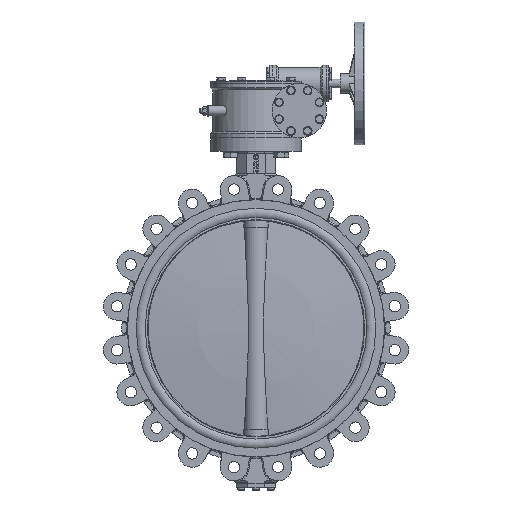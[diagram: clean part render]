
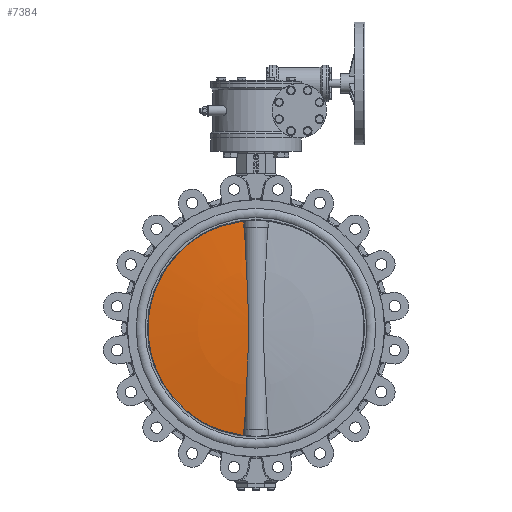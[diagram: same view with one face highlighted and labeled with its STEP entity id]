
A CAD part, left-side view. The second image highlights one B-rep face of the part: STEP entity #7384.
In plain terms, the highlighted spherical face has radius 2200.11 mm.
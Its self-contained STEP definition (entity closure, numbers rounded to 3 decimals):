
#7384=ADVANCED_FACE('',(#14074),#14076,.T.);
#14074=FACE_BOUND('',#14075,.T.);
#14075=EDGE_LOOP('',(#25627,#25628,#25629,#25630,#25631,#25632));
#14076=SPHERICAL_SURFACE('',#14077,2200.107);
#14077=AXIS2_PLACEMENT_3D('',#14078,#14079,#14080);
#14078=CARTESIAN_POINT('',(0.,-2177.107,0.));
#14079=DIRECTION('',(0.,-1.,0.));
#14080=DIRECTION('',(0.,0.,1.));
#25627=ORIENTED_EDGE('',*,*,#29377,.F.);
#25628=ORIENTED_EDGE('',*,*,#29389,.F.);
#25629=ORIENTED_EDGE('',*,*,#29390,.T.);
#25630=ORIENTED_EDGE('',*,*,#29391,.F.);
#25631=ORIENTED_EDGE('',*,*,#29360,.F.);
#25632=ORIENTED_EDGE('',*,*,#29388,.T.);
#29360=EDGE_CURVE('',#33767,#33768,#33769,.T.);
#29377=EDGE_CURVE('',#33800,#33785,#33802,.F.);
#29388=EDGE_CURVE('',#33767,#33785,#33817,.T.);
#29389=EDGE_CURVE('',#33818,#33800,#33819,.T.);
#29390=EDGE_CURVE('',#33818,#33820,#33821,.T.);
#29391=EDGE_CURVE('',#33768,#33820,#33822,.F.);
#33767=VERTEX_POINT('',#49223);
#33768=VERTEX_POINT('',#49224);
#33769=B_SPLINE_CURVE_WITH_KNOTS('',3,
(#49225,#49226,#49227,#49228,#49229,#49230,#49231),
.UNSPECIFIED.,.F.,.F.,
(4,1,1,1,4),
(0.,0.249,0.498,0.749,1.),
.UNSPECIFIED.);
#33785=VERTEX_POINT('',#49347);
#33800=VERTEX_POINT('',#49459);
#33802=B_SPLINE_CURVE_WITH_KNOTS('',3,
(#49464,#49465,#49466,#49467,#49468,#49469,#49470),
.UNSPECIFIED.,.F.,.F.,
(4,1,1,1,4),
(0.,0.249,0.498,0.749,1.),
.UNSPECIFIED.);
#33817=CIRCLE('',#49578,250.);
#33818=VERTEX_POINT('',#49582);
#33819=CIRCLE('',#49583,2187.655);
#33820=VERTEX_POINT('',#49587);
#33821=B_SPLINE_CURVE_WITH_KNOTS('',3,
(#49588,#49589,#49590,#49591,#49592,#49593,#49594,#49595,#49596,#49597,#49598,#49599,
#49600,#49601,#49602,#49603,#49604,#49605,#49606,#49607,#49608,#49609,#49610,#49611,
#49612,#49613,#49614,#49615,#49616,#49617,#49618,#49619,#49620,#49621,#49622,#49623,
#49624),
.UNSPECIFIED.,.F.,.F.,
(4,1,1,1,1,1,1,1,1,1,1,1,1,1,1,1,1,1,1,1,1,1,1,1,1,1,1,1,1,1,1,1,1,1,4),
(0.,0.02,0.041,0.061,0.082,
0.102,0.134,0.183,0.248,0.303,
0.345,0.371,0.395,0.417,0.44,
0.463,0.486,0.5,0.51,0.534,
0.559,0.585,0.612,0.64,0.669,
0.698,0.729,0.761,0.793,0.826,
0.86,0.894,0.929,0.964,1.),
.UNSPECIFIED.);
#33822=CIRCLE('',#49625,2187.655);
#49223=CARTESIAN_POINT('',(28.865,8.75,248.328));
#49224=CARTESIAN_POINT('',(28.326,10.364,233.75));
#49225=CARTESIAN_POINT('',(28.865,8.75,248.328));
#49226=CARTESIAN_POINT('',(28.824,8.888,247.119));
#49227=CARTESIAN_POINT('',(28.738,9.162,244.698));
#49228=CARTESIAN_POINT('',(28.606,9.568,241.06));
#49229=CARTESIAN_POINT('',(28.468,9.969,237.409));
#49230=CARTESIAN_POINT('',(28.374,10.233,234.971));
#49231=CARTESIAN_POINT('',(28.326,10.364,233.75));
#49347=CARTESIAN_POINT('',(28.865,8.75,-248.328));
#49459=CARTESIAN_POINT('',(28.326,10.364,-233.75));
#49464=CARTESIAN_POINT('',(28.865,8.75,-248.328));
#49465=CARTESIAN_POINT('',(28.824,8.888,-247.119));
#49466=CARTESIAN_POINT('',(28.738,9.162,-244.698));
#49467=CARTESIAN_POINT('',(28.606,9.568,-241.06));
#49468=CARTESIAN_POINT('',(28.468,9.969,-237.409));
#49469=CARTESIAN_POINT('',(28.374,10.233,-234.971));
#49470=CARTESIAN_POINT('',(28.326,10.364,-233.75));
#49578=AXIS2_PLACEMENT_3D('',#49579,#49580,#49581);
#49579=CARTESIAN_POINT('',(0.,8.75,0.));
#49580=DIRECTION('',(0.,1.,0.));
#49581=DIRECTION('',(0.115,0.,0.993));
#49582=CARTESIAN_POINT('',(26.932,10.382,-233.75));
#49583=AXIS2_PLACEMENT_3D('',#49584,#49585,#49586);
#49584=CARTESIAN_POINT('',(0.,-2177.107,-233.75));
#49585=DIRECTION('',(0.,0.,-1.));
#49586=DIRECTION('',(0.012,1.,0.));
#49587=CARTESIAN_POINT('',(26.932,10.382,233.75));
#49588=CARTESIAN_POINT('',(26.932,10.382,-233.75));
#49589=CARTESIAN_POINT('',(26.801,10.722,-230.579));
#49590=CARTESIAN_POINT('',(26.529,11.39,-224.232));
#49591=CARTESIAN_POINT('',(26.095,12.35,-214.705));
#49592=CARTESIAN_POINT('',(25.639,13.27,-205.163));
#49593=CARTESIAN_POINT('',(25.164,14.15,-195.607));
#49594=CARTESIAN_POINT('',(24.581,15.146,-184.243));
#49595=CARTESIAN_POINT('',(23.751,16.434,-168.538));
#49596=CARTESIAN_POINT('',(22.529,18.093,-145.929));
#49597=CARTESIAN_POINT('',(21.125,19.706,-119.603));
#49598=CARTESIAN_POINT('',(19.891,20.931,-94.243));
#49599=CARTESIAN_POINT('',(19.082,21.661,-74.914));
#49600=CARTESIAN_POINT('',(18.57,22.098,-60.557));
#49601=CARTESIAN_POINT('',(18.228,22.38,-49.319));
#49602=CARTESIAN_POINT('',(17.961,22.595,-38.668));
#49603=CARTESIAN_POINT('',(17.756,22.756,-28.176));
#49604=CARTESIAN_POINT('',(17.61,22.869,-17.481));
#49605=CARTESIAN_POINT('',(17.542,22.921,-8.055));
#49606=CARTESIAN_POINT('',(17.527,22.932,-0.67));
#49607=CARTESIAN_POINT('',(17.538,22.925,6.845));
#49608=CARTESIAN_POINT('',(17.595,22.881,16.075));
#49609=CARTESIAN_POINT('',(17.747,22.764,27.803));
#49610=CARTESIAN_POINT('',(17.987,22.575,39.986));
#49611=CARTESIAN_POINT('',(18.317,22.308,52.561));
#49612=CARTESIAN_POINT('',(18.741,21.955,65.625));
#49613=CARTESIAN_POINT('',(19.255,21.507,79.115));
#49614=CARTESIAN_POINT('',(19.857,20.954,93.129));
#49615=CARTESIAN_POINT('',(20.535,20.292,107.504));
#49616=CARTESIAN_POINT('',(21.277,19.514,122.256));
#49617=CARTESIAN_POINT('',(22.068,18.618,137.305));
#49618=CARTESIAN_POINT('',(22.898,17.59,152.752));
#49619=CARTESIAN_POINT('',(23.747,16.429,168.497));
#49620=CARTESIAN_POINT('',(24.598,15.129,184.541));
#49621=CARTESIAN_POINT('',(25.429,13.692,200.782));
#49622=CARTESIAN_POINT('',(26.219,12.114,217.221));
#49623=CARTESIAN_POINT('',(26.703,10.975,228.224));
#49624=CARTESIAN_POINT('',(26.932,10.382,233.75));
#49625=AXIS2_PLACEMENT_3D('',#49626,#49627,#49628);
#49626=CARTESIAN_POINT('',(0.,-2177.107,233.75));
#49627=DIRECTION('',(0.,0.,-1.));
#49628=DIRECTION('',(0.012,1.,0.));
